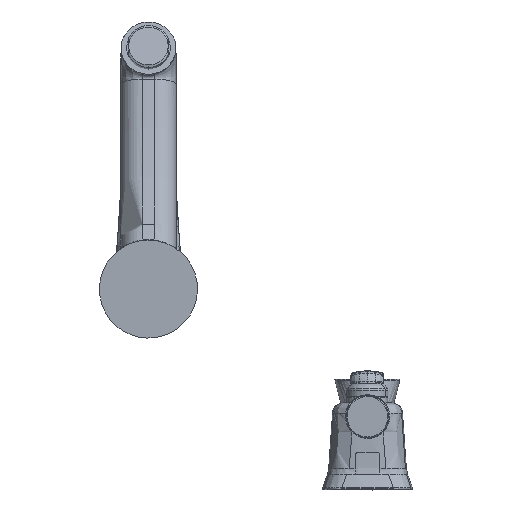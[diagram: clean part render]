
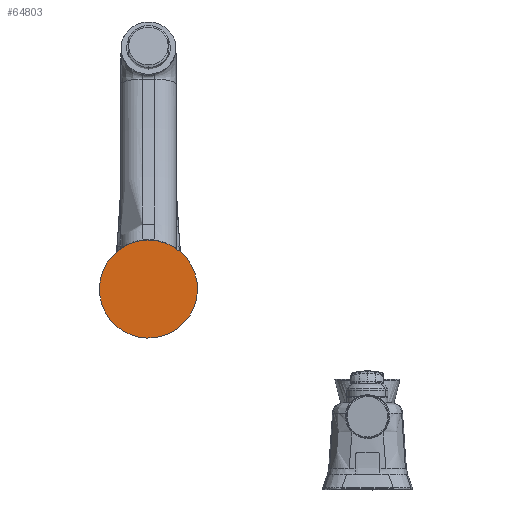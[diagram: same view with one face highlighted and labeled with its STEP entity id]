
A CAD part, front view. The second image highlights one B-rep face of the part: STEP entity #64803.
In plain terms, the highlighted planar face has unit normal (0, -1, 0).
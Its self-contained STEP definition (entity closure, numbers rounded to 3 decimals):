
#71 = DIRECTION ( 'NONE',  ( -0.999, 0., 0.035 ) ) ;
#6918 = CIRCLE ( 'NONE', #50120, 26.865 ) ;
#8216 = ORIENTED_EDGE ( 'NONE', *, *, #60112, .T. ) ;
#9587 = VERTEX_POINT ( 'NONE', #40033 ) ;
#15080 = AXIS2_PLACEMENT_3D ( 'NONE', #53032, #69277, #35010 ) ;
#18758 = PLANE ( 'NONE',  #61236 ) ;
#19002 = DIRECTION ( 'NONE',  ( 0., -1., 0. ) ) ;
#20533 = EDGE_LOOP ( 'NONE', ( #8216, #45844 ) ) ;
#22832 = DIRECTION ( 'NONE',  ( 0., -1., 0. ) ) ;
#28641 = CARTESIAN_POINT ( 'NONE',  ( 0., -4.55, 0. ) ) ;
#35010 = DIRECTION ( 'NONE',  ( -0.999, 0., 0.035 ) ) ;
#40033 = CARTESIAN_POINT ( 'NONE',  ( -26.848, -4.55, 0.938 ) ) ;
#45844 = ORIENTED_EDGE ( 'NONE', *, *, #66868, .T. ) ;
#48517 = CARTESIAN_POINT ( 'NONE',  ( 26.848, -4.55, -0.938 ) ) ;
#50120 = AXIS2_PLACEMENT_3D ( 'NONE', #28641, #22832, #71 ) ;
#52539 = CIRCLE ( 'NONE', #15080, 26.865 ) ;
#53032 = CARTESIAN_POINT ( 'NONE',  ( 0., -4.55, 0. ) ) ;
#60112 = EDGE_CURVE ( 'NONE', #72689, #9587, #52539, .T. ) ;
#61236 = AXIS2_PLACEMENT_3D ( 'NONE', #64360, #19002, #65103 ) ;
#64360 = CARTESIAN_POINT ( 'NONE',  ( -23.985, -4.55, 0.838 ) ) ;
#64803 = ADVANCED_FACE ( 'NONE', ( #73681 ), #18758, .T. ) ;
#65103 = DIRECTION ( 'NONE',  ( 0.035, 0., 0.999 ) ) ;
#66868 = EDGE_CURVE ( 'NONE', #9587, #72689, #6918, .T. ) ;
#69277 = DIRECTION ( 'NONE',  ( 0., -1., 0. ) ) ;
#72689 = VERTEX_POINT ( 'NONE', #48517 ) ;
#73681 = FACE_OUTER_BOUND ( 'NONE', #20533, .T. ) ;
